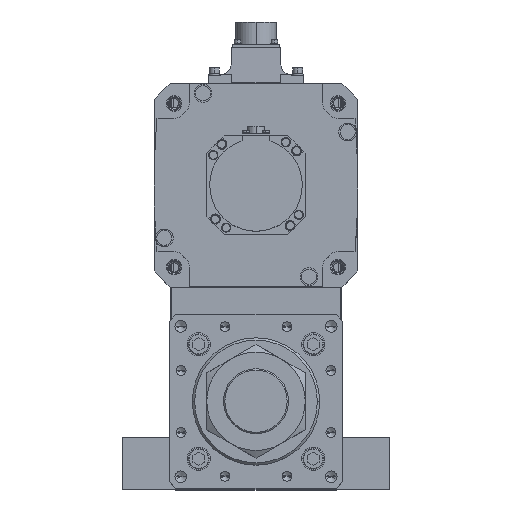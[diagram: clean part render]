
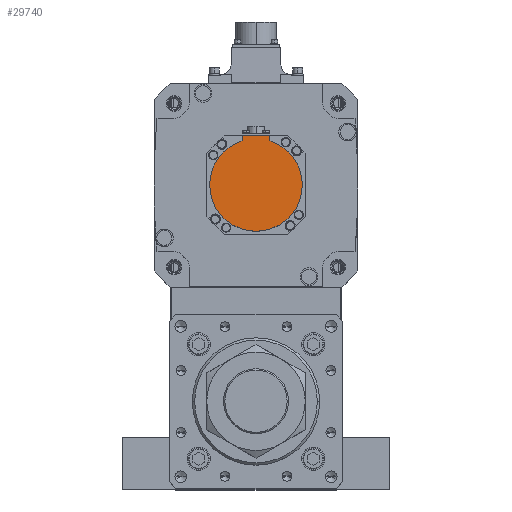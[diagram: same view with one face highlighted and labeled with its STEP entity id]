
A CAD part, top view. The second image highlights one B-rep face of the part: STEP entity #29740.
In plain terms, the highlighted planar face has unit normal (0, 0, 1) as drawn and (0, 0, -1) by its records, which use the part's own axes.
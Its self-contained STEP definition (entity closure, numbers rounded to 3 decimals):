
#93 = LINE ( 'NONE', #1870, #19025 ) ;
#947 = EDGE_CURVE ( 'NONE', #24432, #10000, #1966, .T. ) ;
#1870 = CARTESIAN_POINT ( 'NONE',  ( -12., -40.329, -162.5 ) ) ;
#1966 = LINE ( 'NONE', #33072, #31297 ) ;
#2053 = CARTESIAN_POINT ( 'NONE',  ( 0., -1.249, -162.5 ) ) ;
#4146 = DIRECTION ( 'NONE',  ( -1., 0., 0. ) ) ;
#4294 = EDGE_CURVE ( 'NONE', #24432, #21320, #25423, .T. ) ;
#8394 = DIRECTION ( 'NONE',  ( 1., 0., 0. ) ) ;
#9346 = ORIENTED_EDGE ( 'NONE', *, *, #33078, .F. ) ;
#9786 = ORIENTED_EDGE ( 'NONE', *, *, #53676, .F. ) ;
#10000 = VERTEX_POINT ( 'NONE', #17787 ) ;
#10803 = VERTEX_POINT ( 'NONE', #45905 ) ;
#11303 = EDGE_LOOP ( 'NONE', ( #20773, #9346, #51390, #9786, #19398, #13674 ) ) ;
#13674 = ORIENTED_EDGE ( 'NONE', *, *, #947, .T. ) ;
#13960 = AXIS2_PLACEMENT_3D ( 'NONE', #45789, #16275, #8394 ) ;
#14437 = CIRCLE ( 'NONE', #13960, 40. ) ;
#14454 = CARTESIAN_POINT ( 'NONE',  ( 12., -1.249, -162.5 ) ) ;
#16048 = FACE_OUTER_BOUND ( 'NONE', #11303, .T. ) ;
#16275 = DIRECTION ( 'NONE',  ( 0., 0., 1. ) ) ;
#17236 = CARTESIAN_POINT ( 'NONE',  ( -40., 0., -162.5 ) ) ;
#17787 = CARTESIAN_POINT ( 'NONE',  ( -12., -42.5, -162.5 ) ) ;
#18900 = EDGE_CURVE ( 'NONE', #10000, #20413, #93, .T. ) ;
#19025 = VECTOR ( 'NONE', #19900, 1000. ) ;
#19398 = ORIENTED_EDGE ( 'NONE', *, *, #4294, .F. ) ;
#19764 = DIRECTION ( 'NONE',  ( 0., 0., 1. ) ) ;
#19900 = DIRECTION ( 'NONE',  ( 0., 1., 0. ) ) ;
#20413 = VERTEX_POINT ( 'NONE', #26868 ) ;
#20773 = ORIENTED_EDGE ( 'NONE', *, *, #18900, .T. ) ;
#20826 = AXIS2_PLACEMENT_3D ( 'NONE', #2053, #35558, #31187 ) ;
#21320 = VERTEX_POINT ( 'NONE', #41191 ) ;
#22730 = CARTESIAN_POINT ( 'NONE',  ( 0., 0., -162.5 ) ) ;
#22827 = PLANE ( 'NONE',  #20826 ) ;
#24110 = CARTESIAN_POINT ( 'NONE',  ( 12., -42.5, -162.5 ) ) ;
#24432 = VERTEX_POINT ( 'NONE', #24110 ) ;
#25423 = LINE ( 'NONE', #14454, #47496 ) ;
#26868 = CARTESIAN_POINT ( 'NONE',  ( -12., -38.158, -162.5 ) ) ;
#29674 = AXIS2_PLACEMENT_3D ( 'NONE', #36494, #19764, #39998 ) ;
#29740 = ADVANCED_FACE ( 'NONE', ( #16048 ), #22827, .F. ) ;
#30834 = DIRECTION ( 'NONE',  ( 0., 1., 0. ) ) ;
#31187 = DIRECTION ( 'NONE',  ( 1., 0., 0. ) ) ;
#31297 = VECTOR ( 'NONE', #4146, 1000. ) ;
#33072 = CARTESIAN_POINT ( 'NONE',  ( 0., -42.5, -162.5 ) ) ;
#33078 = EDGE_CURVE ( 'NONE', #53901, #20413, #14437, .T. ) ;
#33822 = AXIS2_PLACEMENT_3D ( 'NONE', #22730, #44023, #35293 ) ;
#34346 = CIRCLE ( 'NONE', #29674, 40. ) ;
#35293 = DIRECTION ( 'NONE',  ( 1., 0., 0. ) ) ;
#35558 = DIRECTION ( 'NONE',  ( 0., 0., 1. ) ) ;
#36494 = CARTESIAN_POINT ( 'NONE',  ( 0., 0., -162.5 ) ) ;
#37306 = CIRCLE ( 'NONE', #33822, 40. ) ;
#39998 = DIRECTION ( 'NONE',  ( 1., 0., 0. ) ) ;
#41191 = CARTESIAN_POINT ( 'NONE',  ( 12., -38.158, -162.5 ) ) ;
#41801 = EDGE_CURVE ( 'NONE', #10803, #53901, #34346, .T. ) ;
#44023 = DIRECTION ( 'NONE',  ( 0., 0., 1. ) ) ;
#45789 = CARTESIAN_POINT ( 'NONE',  ( 0., 0., -162.5 ) ) ;
#45905 = CARTESIAN_POINT ( 'NONE',  ( 40., 0., -162.5 ) ) ;
#47496 = VECTOR ( 'NONE', #30834, 1000. ) ;
#51390 = ORIENTED_EDGE ( 'NONE', *, *, #41801, .F. ) ;
#53676 = EDGE_CURVE ( 'NONE', #21320, #10803, #37306, .T. ) ;
#53901 = VERTEX_POINT ( 'NONE', #17236 ) ;
